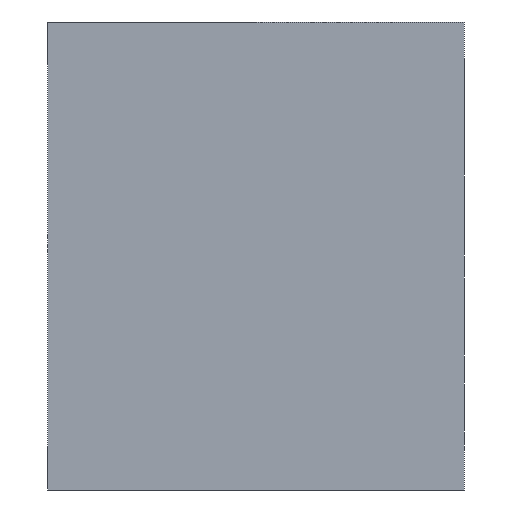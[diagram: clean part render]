
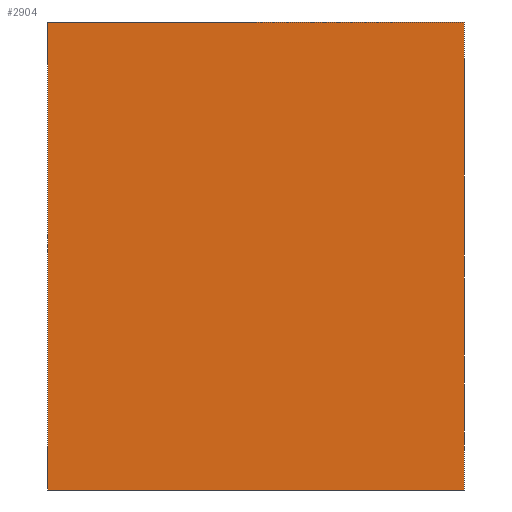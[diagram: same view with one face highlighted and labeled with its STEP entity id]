
A CAD part, left-side view. The second image highlights one B-rep face of the part: STEP entity #2904.
In plain terms, the highlighted planar face has unit normal (-1, 0, 0).
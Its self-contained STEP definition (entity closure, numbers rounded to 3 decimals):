
#22=DIRECTION('',(0.,0.,-1.));
#23=VECTOR('',#22,45.);
#24=CARTESIAN_POINT('',(0.,0.,0.));
#25=LINE('',#24,#23);
#30=DIRECTION('',(0.,1.,0.));
#31=VECTOR('',#30,40.);
#32=CARTESIAN_POINT('',(0.,0.,-45.));
#33=LINE('',#32,#31);
#37=DIRECTION('',(0.,0.,1.));
#38=VECTOR('',#37,45.);
#39=CARTESIAN_POINT('',(0.,40.,-45.));
#40=LINE('',#39,#38);
#44=DIRECTION('',(0.,-1.,0.));
#45=VECTOR('',#44,40.);
#46=CARTESIAN_POINT('',(0.,40.,0.));
#47=LINE('',#46,#45);
#2615=CARTESIAN_POINT('',(0.,0.,0.));
#2616=CARTESIAN_POINT('',(0.,0.,-45.));
#2617=VERTEX_POINT('',#2615);
#2618=VERTEX_POINT('',#2616);
#2619=CARTESIAN_POINT('',(0.,40.,-45.));
#2620=VERTEX_POINT('',#2619);
#2621=CARTESIAN_POINT('',(0.,40.,0.));
#2622=VERTEX_POINT('',#2621);
#2889=CARTESIAN_POINT('',(0.,0.,0.));
#2890=DIRECTION('',(1.,0.,0.));
#2891=DIRECTION('',(0.,0.,-1.));
#2892=AXIS2_PLACEMENT_3D('',#2889,#2890,#2891);
#2893=PLANE('',#2892);
#2895=ORIENTED_EDGE('',*,*,#2894,.T.);
#2897=ORIENTED_EDGE('',*,*,#2896,.T.);
#2899=ORIENTED_EDGE('',*,*,#2898,.T.);
#2901=ORIENTED_EDGE('',*,*,#2900,.T.);
#2902=EDGE_LOOP('',(#2895,#2897,#2899,#2901));
#2903=FACE_OUTER_BOUND('',#2902,.F.);
#2894=EDGE_CURVE('',#2617,#2618,#25,.T.);
#2896=EDGE_CURVE('',#2618,#2620,#33,.T.);
#2898=EDGE_CURVE('',#2620,#2622,#40,.T.);
#2900=EDGE_CURVE('',#2622,#2617,#47,.T.);
#2904=ADVANCED_FACE('',(#2903),#2893,.F.);
